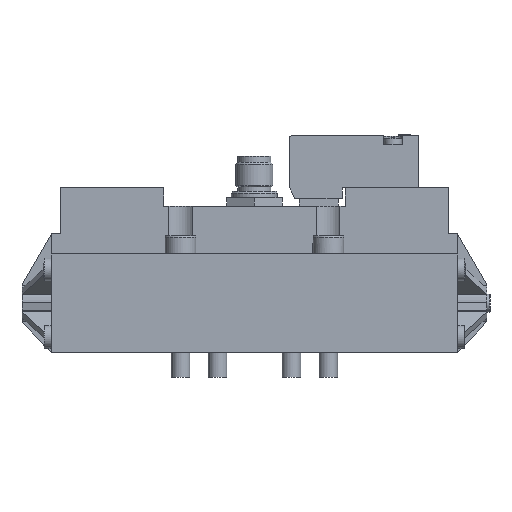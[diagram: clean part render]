
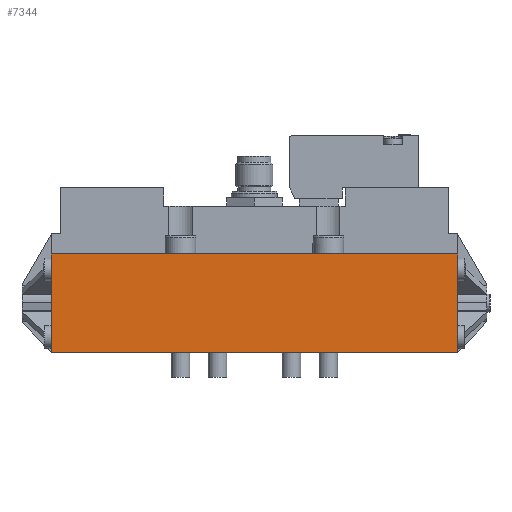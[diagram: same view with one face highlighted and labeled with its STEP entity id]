
A CAD part, front view. The second image highlights one B-rep face of the part: STEP entity #7344.
In plain terms, the highlighted planar face has unit normal (0, -1, 0).
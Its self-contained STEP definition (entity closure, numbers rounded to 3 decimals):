
#3228=CARTESIAN_POINT('',(66.,-26.,-16.0));
#3229=VERTEX_POINT('',#3228);
#3236=CARTESIAN_POINT('',(-66.0,-26.0,-16.0));
#3237=VERTEX_POINT('',#3236);
#3238=CARTESIAN_POINT('',(-66.,-26.0,-16.0));
#3239=DIRECTION('',(1.0,0.0,0.0));
#3240=VECTOR('',#3239,132.0);
#3241=LINE('',#3238,#3240);
#3242=EDGE_CURVE('',#3237,#3229,#3241,.T.);
#3325=CARTESIAN_POINT('',(-66.0,-26.0,16.0));
#3326=VERTEX_POINT('',#3325);
#3333=CARTESIAN_POINT('',(66.,-26.,16.0));
#3334=VERTEX_POINT('',#3333);
#3335=CARTESIAN_POINT('',(66.,-26.,16.0));
#3336=DIRECTION('',(-1.0,0.0,0.0));
#3337=VECTOR('',#3336,132.0);
#3338=LINE('',#3335,#3337);
#3339=EDGE_CURVE('',#3334,#3326,#3338,.T.);
#3716=CARTESIAN_POINT('',(-66.0,-26.0,16.0));
#3717=DIRECTION('',(0.0,0.0,-1.0));
#3718=VECTOR('',#3717,32.0);
#3719=LINE('',#3716,#3718);
#3720=EDGE_CURVE('',#3326,#3237,#3719,.T.);
#4177=CARTESIAN_POINT('',(66.,-26.,16.0));
#4178=DIRECTION('',(0.0,0.0,-1.0));
#4179=VECTOR('',#4178,32.0);
#4180=LINE('',#4177,#4179);
#4181=EDGE_CURVE('',#3334,#3229,#4180,.T.);
#7333=CARTESIAN_POINT('',(66.,-26.,0.0));
#7334=DIRECTION('',(0.0,-1.0,0.0));
#7335=DIRECTION('',(0.0,0.0,-1.0));
#7336=AXIS2_PLACEMENT_3D('',#7333,#7334,#7335);
#7337=PLANE('',#7336);
#7338=ORIENTED_EDGE('',*,*,#3720,.T.);
#7339=ORIENTED_EDGE('',*,*,#3242,.T.);
#7340=ORIENTED_EDGE('',*,*,#4181,.F.);
#7341=ORIENTED_EDGE('',*,*,#3339,.T.);
#7342=EDGE_LOOP('',(#7338,#7339,#7340,#7341));
#7343=FACE_OUTER_BOUND('',#7342,.T.);
#7344=ADVANCED_FACE('',(#7343),#7337,.T.);
